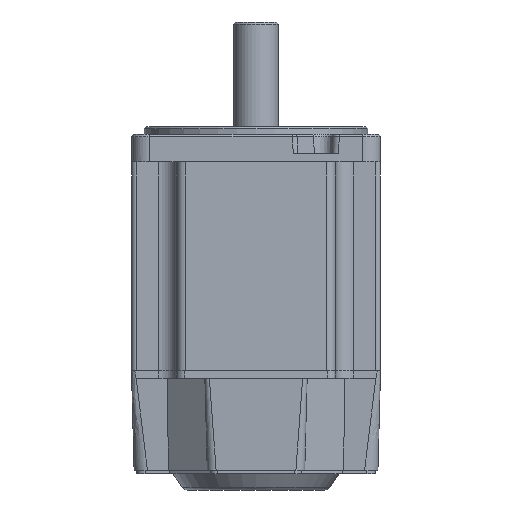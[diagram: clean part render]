
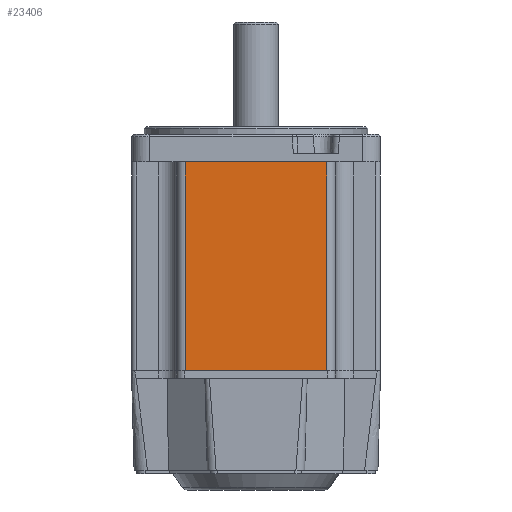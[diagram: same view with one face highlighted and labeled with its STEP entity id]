
A CAD part, front view. The second image highlights one B-rep face of the part: STEP entity #23406.
In plain terms, the highlighted planar face has unit normal (0, -1, 0).
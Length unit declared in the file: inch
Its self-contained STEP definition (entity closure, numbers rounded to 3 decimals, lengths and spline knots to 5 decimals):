
#21517=CARTESIAN_POINT('',(0.995,-1.75,-2.94));
#21518=VERTEX_POINT('',#21517);
#21525=CARTESIAN_POINT('',(-0.995,-1.75,-2.94));
#21526=VERTEX_POINT('',#21525);
#21527=CARTESIAN_POINT('',(-0.995,-1.75,-2.94));
#21528=DIRECTION('',(1.0,0.0,0.0));
#21529=VECTOR('',#21528,1.99);
#21530=LINE('',#21527,#21529);
#21531=EDGE_CURVE('',#21526,#21518,#21530,.T.);
#23364=CARTESIAN_POINT('',(-0.995,-1.75,0.0));
#23365=VERTEX_POINT('',#23364);
#23366=CARTESIAN_POINT('',(-0.995,-1.75,-2.94));
#23367=DIRECTION('',(0.0,0.0,1.0));
#23368=VECTOR('',#23367,2.94);
#23369=LINE('',#23366,#23368);
#23370=EDGE_CURVE('',#21526,#23365,#23369,.T.);
#23383=CARTESIAN_POINT('',(1.5,-1.75,0.0));
#23384=DIRECTION('',(0.0,-1.0,0.0));
#23385=DIRECTION('',(0.0,0.0,-1.0));
#23386=AXIS2_PLACEMENT_3D('',#23383,#23384,#23385);
#23387=PLANE('',#23386);
#23388=ORIENTED_EDGE('',*,*,#21531,.T.);
#23389=CARTESIAN_POINT('',(0.995,-1.75,0.0));
#23390=VERTEX_POINT('',#23389);
#23391=CARTESIAN_POINT('',(0.995,-1.75,0.0));
#23392=DIRECTION('',(0.0,0.0,-1.0));
#23393=VECTOR('',#23392,2.94);
#23394=LINE('',#23391,#23393);
#23395=EDGE_CURVE('',#23390,#21518,#23394,.T.);
#23396=ORIENTED_EDGE('',*,*,#23395,.F.);
#23397=CARTESIAN_POINT('',(-0.995,-1.75,0.0));
#23398=DIRECTION('',(1.0,0.0,0.0));
#23399=VECTOR('',#23398,1.99);
#23400=LINE('',#23397,#23399);
#23401=EDGE_CURVE('',#23365,#23390,#23400,.T.);
#23402=ORIENTED_EDGE('',*,*,#23401,.F.);
#23403=ORIENTED_EDGE('',*,*,#23370,.F.);
#23404=EDGE_LOOP('',(#23388,#23396,#23402,#23403));
#23405=FACE_OUTER_BOUND('',#23404,.T.);
#23406=ADVANCED_FACE('',(#23405),#23387,.T.);
